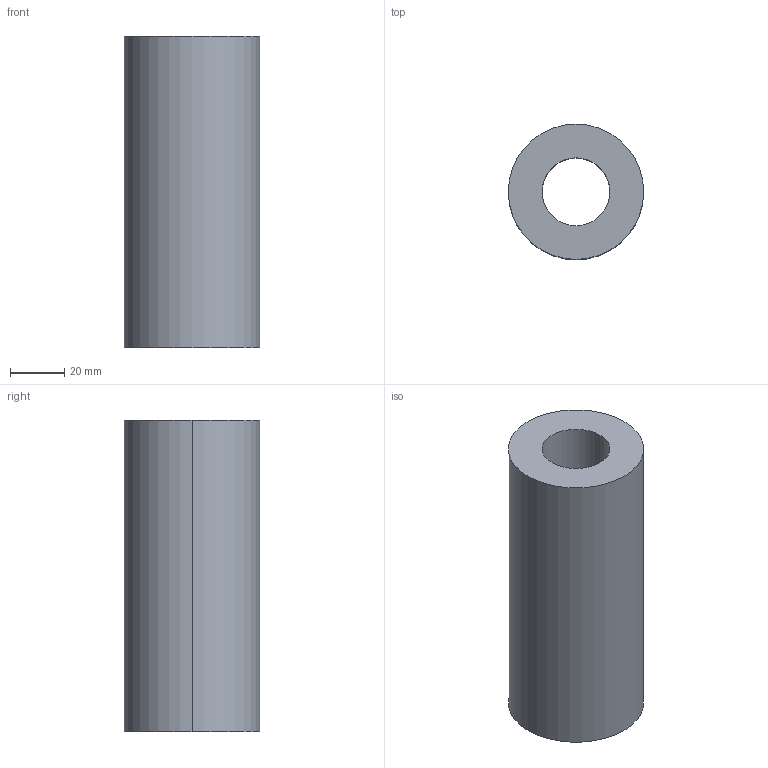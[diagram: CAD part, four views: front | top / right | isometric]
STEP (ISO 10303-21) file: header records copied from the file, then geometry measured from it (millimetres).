
FILE_DESCRIPTION (( 'STEP AP214' ), '1' );
FILE_NAME ('BRA-50X115.STEP', '2020-07-20T11:58:18', ( 'August' ), ( '' ), 'SwSTEP 2.0', 'SolidWorks 2018', '' );
FILE_SCHEMA (( 'AUTOMOTIVE_DESIGN' ));
Length unit declared in the file: millimetre
Products named in the file (1): BRA-50X115
Bounding box: 50 x 50 x 115 mm (x, y, z)
Volume: 169351.5 mm3; surface area: 30041.5 mm2
Topology: 1 solids, 1 shells, 6 faces, 12 edges, 8 vertices
Faces by surface type: cylinder 4, plane 2
Entity records: 202 total; most frequent: DIRECTION 34, CARTESIAN_POINT 27, ORIENTED_EDGE 24, AXIS2_PLACEMENT_3D 15, EDGE_CURVE 12, CIRCLE 8, VERTEX_POINT 8, EDGE_LOOP 8
